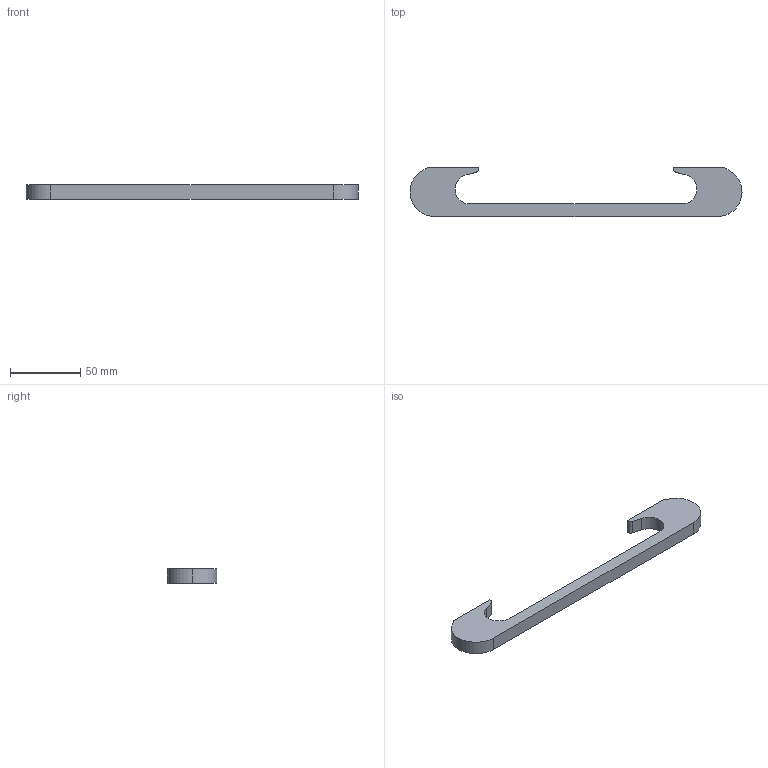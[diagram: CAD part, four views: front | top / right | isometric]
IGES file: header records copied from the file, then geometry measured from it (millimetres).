
Start section: Data from Parasolid IGES Translator 15.0.47, Copyright(c) 2006 Siemens P LM Software. All Rights Reserved.
Global section: file name: 9131365.igs; native system:  By UGS Corp.; preprocessor: XPlus GENERIC/IGES 3.0; author: Noname; organization: Noname; date: 20140122.143841; units: millimetre
Bounding box: 235.99 x 35 x 10 mm (x, y, z)
Surface area: 13868.3 mm2 (no closed solid volume)
Topology: 0 solids, 0 shells, 24 faces, 120 edges, 119 vertices
Faces by surface type: revolution 12, extrusion 12
